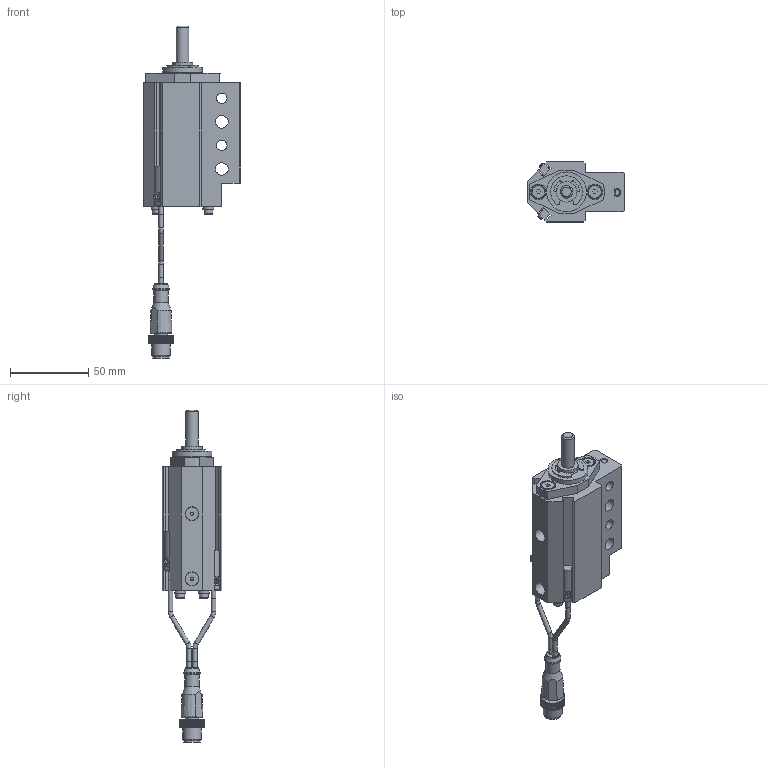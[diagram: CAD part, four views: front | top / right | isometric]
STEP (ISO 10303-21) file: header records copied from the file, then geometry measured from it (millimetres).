
FILE_DESCRIPTION(/* description */ ('NAAMS FLOATING MICRO PIN'),/* implementation_level */ '2;1');
FILE_NAME(/* name */ 'C:\Vault Workspace\CAD\Welker\Shot Pin\NMP\NMP080022EDNL3.stp',/* time_stamp */ '2021-01-28T11:52:41-05:00',/* author */ ('WELKER'),/* organization */ (''),/* preprocessor_version */ 'ST-DEVELOPER v18.1',/* originating_system */ 'Autodesk Inventor 2020',/* authorisation */ '');
FILE_SCHEMA (('AUTOMOTIVE_DESIGN { 1 0 10303 214 3 1 1 }'));
Length unit declared in the file: millimetre
Products named in the file (16): NMPL01; NMP L3 SWITCH; L3 Connector; L3 Sensor 1; L3 Sensor 2; L3 Sensor cable; L3 Sensor cable 2; M3X0.5-8 SHCS; NL3; NMPE06; NMPE03; NMPE04-DIA-LENGTH; 985432A218; NMPE01D-PORT; RMPE02; M5X5 SHOULDER
Assembly tree (22 placements, depth 3):
  NMPL01
    NMP L3 SWITCH
      L3 Connector
      L3 Sensor 1
      L3 Sensor 2
      L3 Sensor cable
      L3 Sensor cable 2
    M3X0.5-8 SHCS  x4
    NL3  x4
    NMPE06
    NMPE03
    NMPE04-DIA-LENGTH
    985432A218
    NMPE01D-PORT
    RMPE02
    M5X5 SHOULDER  x2
Bounding box: 62 x 38.1 x 211.52 mm (x, y, z)
Volume: 111977.7 mm3; surface area: 45179.4 mm2
Topology: 21 solids, 21 shells, 747 faces, 2019 edges, 1349 vertices
Faces by surface type: plane 549, cylinder 144, cone 31, torus 11, bspline 10, sphere 2
Full cylindrical faces by diameter (mm): 2 x2, 2.459 x4, 2.9 x10, 3 x5, 3.242 x2, 3.4 x4, 4 x2, 5 x6, 5.5 x4, 6.647 x2, 7 x4, 8 x3, 8.3 x2, 9 x3, 10 x3, 10.4 x1, 10.5 x1, 12 x1, 13 x3, 16 x2, 19.05 x3, 21 x1, 22.5 x1, 23.672 x1, 24 x1, 25.4 x1, 25.5 x1, 26.5 x1, 28.677 x1, 29.21 x1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
Entity records: 22795 total; most frequent: CARTESIAN_POINT 4222, ORIENTED_EDGE 3736, DIRECTION 3693, EDGE_CURVE 1868, LINE 1375, VECTOR 1375, VERTEX_POINT 1254, AXIS2_PLACEMENT_3D 1159
